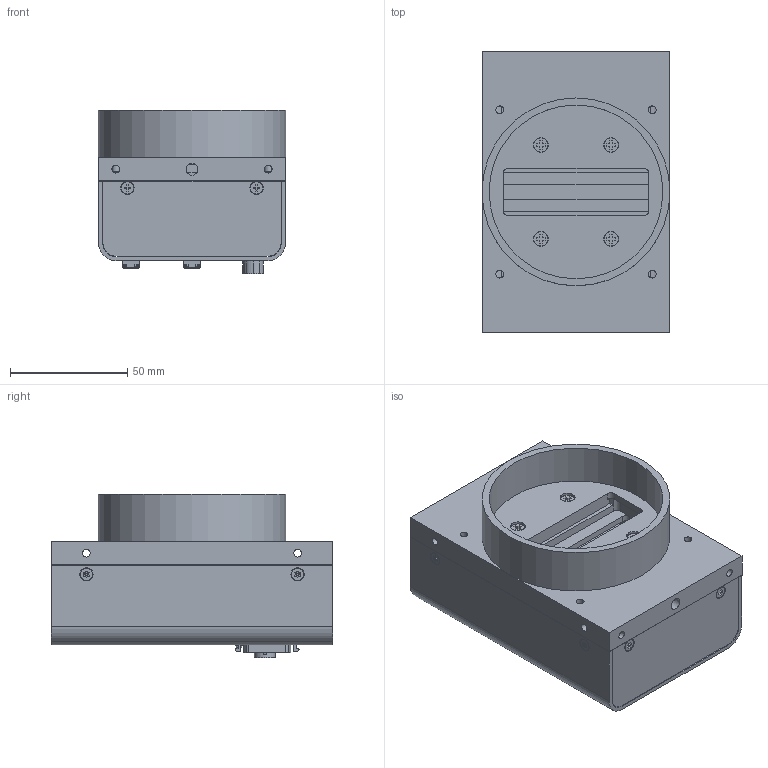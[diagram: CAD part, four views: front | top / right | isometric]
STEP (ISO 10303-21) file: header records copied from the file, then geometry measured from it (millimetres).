
FILE_DESCRIPTION (( 'STEP AP203' ), '1' );
FILE_NAME ('C7-1011-00-48／XCM8085DLMT8外形図.STEP', '2023-02-17T00:39:13', ( '' ), ( '' ), 'SwSTEP 2.0', 'SolidWorks 2020', '' );
FILE_SCHEMA (( 'CONFIG_CONTROL_DESIGN' ));
Products named in the file (1): C7-1011-00-48／XCM8085DLMT8外形図
Bounding box: 80 x 120 x 69.45 mm (x, y, z)
Surface area: 64680.1 mm2 (no closed solid volume)
Topology: 0 solids, 1690 shells, 4861 faces, 26544 edges, 23077 vertices
Faces by surface type: plane 4226, bspline 444, cylinder 170, cone 20, sphere 1
Full cylindrical faces by diameter (mm): 0.5 x6, 0.8 x1, 1 x4, 2 x1, 2.6 x1, 3 x1, 3.3 x12, 5.105 x1, 5.2 x8, 6.3 x4, 8.85 x1, 11 x1, 11.5 x1, 74 x1, 80 x1
Entity records: 314758 total; most frequent: CARTESIAN_POINT 126051, DIRECTION 32004, ORIENTED_EDGE 31230, EDGE_CURVE 26472, VERTEX_POINT 23067, LINE 21308, VECTOR 21308, EDGE_LOOP 5660
